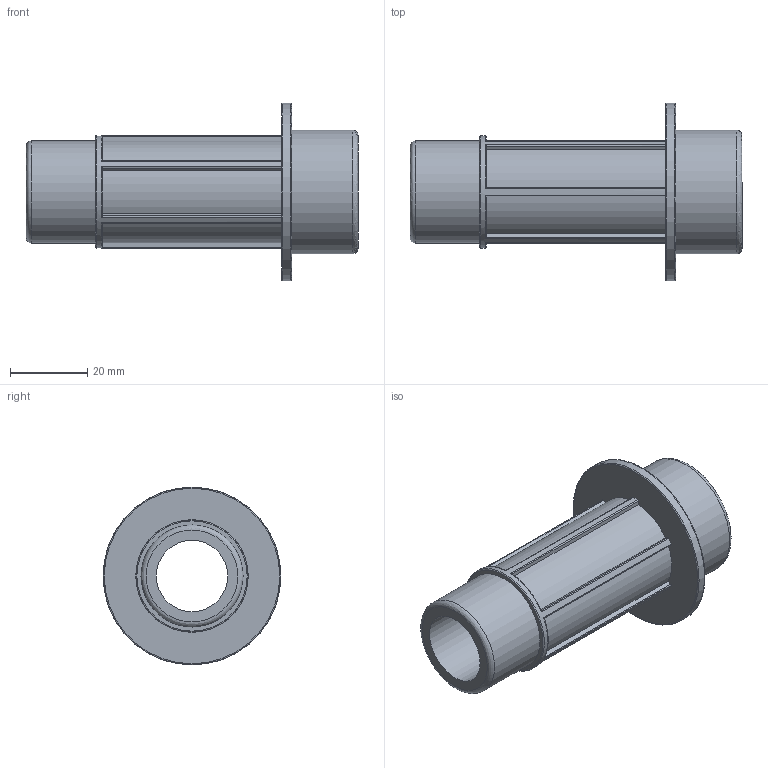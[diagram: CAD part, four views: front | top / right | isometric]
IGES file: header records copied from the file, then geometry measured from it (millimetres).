
Global section: file name: 078901032007.ipt; native system: Autodesk Inventor 2015; preprocessor: unknown; author: KIM; date: 20180409.130851; units: millimetre
Bounding box: 86 x 46 x 46 mm (x, y, z)
Volume: 32248.5 mm3; surface area: 16127.4 mm2
Topology: 1 solids, 1 shells, 57 faces, 163 edges, 111 vertices
Faces by surface type: plane 23, cylinder 22, revolution 12
Full cylindrical faces by diameter (mm): 26.441 x1, 29.085 x1, 32 x1, 46 x1
